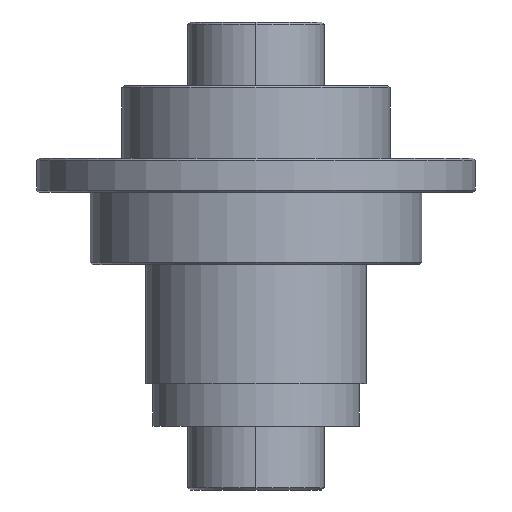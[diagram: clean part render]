
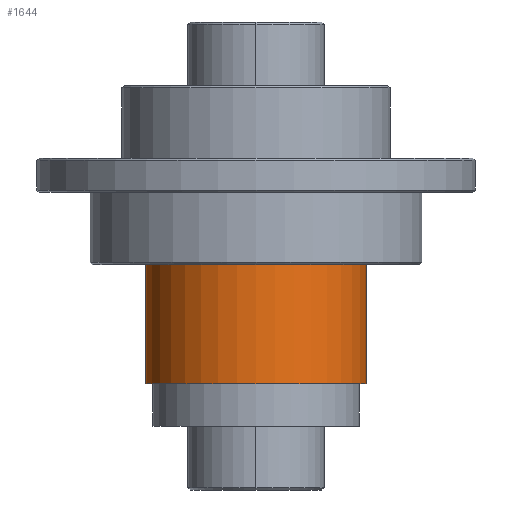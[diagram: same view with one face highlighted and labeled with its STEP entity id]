
A CAD part, left-side view. The second image highlights one B-rep face of the part: STEP entity #1644.
In plain terms, the highlighted cylindrical face has radius 26 mm (diameter 52 mm), a partial arc.
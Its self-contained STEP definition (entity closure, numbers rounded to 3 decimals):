
#10 = CARTESIAN_POINT ( 'NONE',  ( 0., 0., 4. ) ) ;
#228 = CARTESIAN_POINT ( 'NONE',  ( 0., 26., -70. ) ) ;
#294 = ORIENTED_EDGE ( 'NONE', *, *, #2428, .T. ) ;
#413 = AXIS2_PLACEMENT_3D ( 'NONE', #2754, #1432, #2971 ) ;
#541 = AXIS2_PLACEMENT_3D ( 'NONE', #10, #871, #2545 ) ;
#596 = CARTESIAN_POINT ( 'NONE',  ( 0., -26., -70. ) ) ;
#749 = CIRCLE ( 'NONE', #413, 26. ) ;
#756 = CIRCLE ( 'NONE', #2407, 26. ) ;
#871 = DIRECTION ( 'NONE',  ( 0., 0., 1. ) ) ;
#1060 = VERTEX_POINT ( 'NONE', #2248 ) ;
#1137 = DIRECTION ( 'NONE',  ( 0., 0., 1. ) ) ;
#1317 = CARTESIAN_POINT ( 'NONE',  ( 0., -26., 4. ) ) ;
#1319 = VERTEX_POINT ( 'NONE', #596 ) ;
#1373 = LINE ( 'NONE', #1317, #1381 ) ;
#1381 = VECTOR ( 'NONE', #1572, 1000. ) ;
#1424 = LINE ( 'NONE', #2885, #1442 ) ;
#1432 = DIRECTION ( 'NONE',  ( 0., 0., 1. ) ) ;
#1442 = VECTOR ( 'NONE', #2229, 1000. ) ;
#1571 = EDGE_LOOP ( 'NONE', ( #2604, #294, #2039, #2872 ) ) ;
#1572 = DIRECTION ( 'NONE',  ( 0., 0., 1. ) ) ;
#1644 = ADVANCED_FACE ( 'NONE', ( #2674 ), #2643, .T. ) ;
#1958 = EDGE_CURVE ( 'NONE', #2165, #2974, #1424, .T. ) ;
#1970 = EDGE_CURVE ( 'NONE', #1319, #1060, #1373, .T. ) ;
#2039 = ORIENTED_EDGE ( 'NONE', *, *, #1970, .T. ) ;
#2165 = VERTEX_POINT ( 'NONE', #228 ) ;
#2229 = DIRECTION ( 'NONE',  ( 0., 0., 1. ) ) ;
#2248 = CARTESIAN_POINT ( 'NONE',  ( 0., -26., -42. ) ) ;
#2264 = CARTESIAN_POINT ( 'NONE',  ( 0., 26., -42. ) ) ;
#2407 = AXIS2_PLACEMENT_3D ( 'NONE', #2521, #1137, #2740 ) ;
#2428 = EDGE_CURVE ( 'NONE', #2165, #1319, #756, .T. ) ;
#2443 = EDGE_CURVE ( 'NONE', #2974, #1060, #749, .T. ) ;
#2521 = CARTESIAN_POINT ( 'NONE',  ( 0., 0., -70. ) ) ;
#2545 = DIRECTION ( 'NONE',  ( 0., -1., 0. ) ) ;
#2604 = ORIENTED_EDGE ( 'NONE', *, *, #1958, .F. ) ;
#2643 = CYLINDRICAL_SURFACE ( 'NONE', #541, 26. ) ;
#2674 = FACE_OUTER_BOUND ( 'NONE', #1571, .T. ) ;
#2740 = DIRECTION ( 'NONE',  ( 0., -1., 0. ) ) ;
#2754 = CARTESIAN_POINT ( 'NONE',  ( 0., 0., -42. ) ) ;
#2872 = ORIENTED_EDGE ( 'NONE', *, *, #2443, .F. ) ;
#2885 = CARTESIAN_POINT ( 'NONE',  ( 0., 26., 4. ) ) ;
#2971 = DIRECTION ( 'NONE',  ( 0., -1., 0. ) ) ;
#2974 = VERTEX_POINT ( 'NONE', #2264 ) ;
